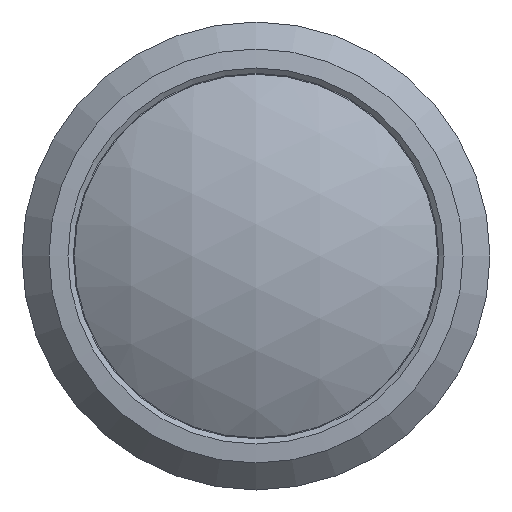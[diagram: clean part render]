
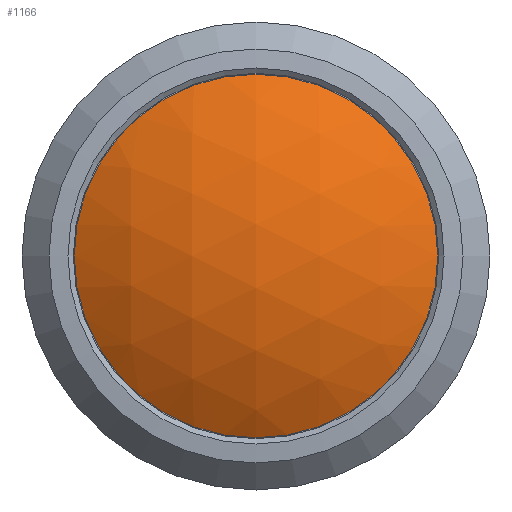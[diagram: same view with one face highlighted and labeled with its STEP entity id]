
A CAD part, left-side view. The second image highlights one B-rep face of the part: STEP entity #1166.
In plain terms, the highlighted spherical face has radius 19.043 mm.
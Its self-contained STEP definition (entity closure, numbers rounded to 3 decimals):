
#131=SPHERICAL_SURFACE('',#1264,19.043);
#325=FACE_OUTER_BOUND('',#398,.T.);
#398=EDGE_LOOP('',(#951));
#444=CIRCLE('',#1265,10.1);
#552=VERTEX_POINT('',#8644);
#704=EDGE_CURVE('',#552,#552,#444,.T.);
#951=ORIENTED_EDGE('',*,*,#704,.F.);
#1166=ADVANCED_FACE('',(#325),#131,.T.);
#1264=AXIS2_PLACEMENT_3D('',#8643,#1429,#1430);
#1265=AXIS2_PLACEMENT_3D('',#8645,#1431,#1432);
#1429=DIRECTION('center_axis',(0.,-1.,0.));
#1430=DIRECTION('ref_axis',(-1.,0.,-0.002));
#1431=DIRECTION('center_axis',(1.,0.,0.));
#1432=DIRECTION('ref_axis',(0.,-1.,0.));
#8643=CARTESIAN_POINT('Origin',(19.043,0.,0.));
#8644=CARTESIAN_POINT('',(2.899,-10.1,0.));
#8645=CARTESIAN_POINT('Origin',(2.899,0.,0.));
